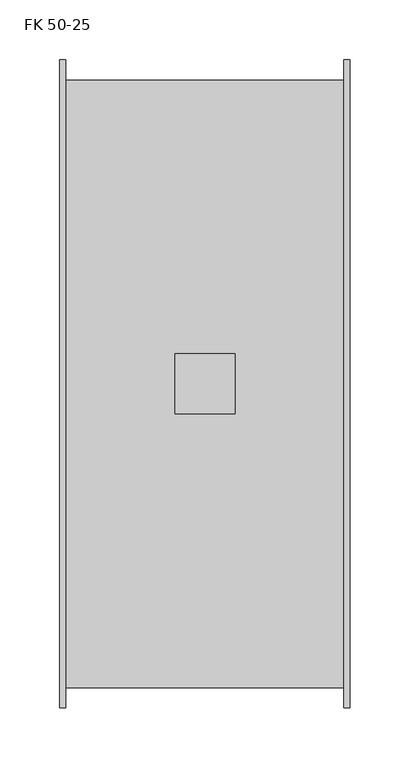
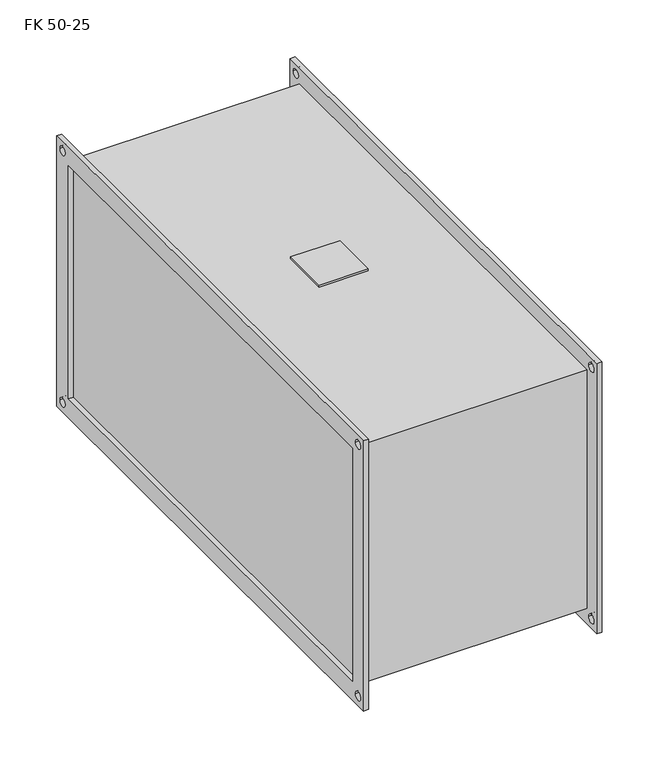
"""IFC4 building model written with IfcOpenShell, lengths in millimetres: damper geometry, KORF_Фильтр_Кассетный_FK : FK 50-25."""

import ifcopenshell
import ifcopenshell.guid

model = None  # the IFC model being written
_history = None  # IfcOwnerHistory: only IFC2X3 demands one
_inside = {}  # id of a spatial element -> (the spatial element, [elements in it])
_under = {}  # id of a project, library or spatial element -> (it, [spatial elements below it])
_declared = {}  # id of a project -> (the project, [libraries it declares])
_typed = {}  # id of a type object -> (the type object, [elements of that type])
_made_of = {}  # id of a material, layer set ... -> (it, [elements and type objects made of it])


def new_model(schema):
    """Start an empty IFC model of exactly this schema.

    Asked for "IFC4X3", IfcOpenShell would pick the latest addendum, in which some entities
    have other attributes; the version numbers below select the first issue.
    IFC2X3 requires an IfcOwnerHistory on every rooted entity: one is made here for all.
    """
    global model, _history
    if schema == "IFC4X3":
        model = ifcopenshell.file(schema_version=(4, 3, 0, 0))
    else:
        model = ifcopenshell.file(schema=schema)
    _inside.clear()
    _under.clear()
    _declared.clear()
    _typed.clear()
    _made_of.clear()
    _history = None
    if model.schema == "IFC2X3":
        org = make("IfcOrganization", Name="unknown")
        user = make(
            "IfcPersonAndOrganization",
            ThePerson=make("IfcPerson", FamilyName="unknown"),
            TheOrganization=org,
        )
        app = make(
            "IfcApplication",
            ApplicationDeveloper=org,
            Version="unknown",
            ApplicationFullName="unknown",
            ApplicationIdentifier="unknown",
        )
        _history = make(
            "IfcOwnerHistory",
            OwningUser=user,
            OwningApplication=app,
            ChangeAction="ADDED",
            CreationDate=0,
        )
    return model


def make(cls, **values):
    """One entity of the class cls with the attributes given. An attribute that is None is left unset."""
    return model.create_entity(
        cls, **{name: value for name, value in values.items() if value is not None}
    )


def rooted(cls, **values):
    """An entity with a GlobalId (a new one), such as an element, a storey or a relation."""
    return make(cls, GlobalId=ifcopenshell.guid.new(), OwnerHistory=_history, **values)


def si_unit(unit_type, name, prefix=None):
    """IfcSIUnit, for example si_unit("LENGTHUNIT", "METRE", prefix="MILLI")."""
    return make("IfcSIUnit", UnitType=unit_type, Prefix=prefix, Name=name)


def assignment(units):
    """IfcUnitAssignment: the units of a project."""
    return None if units is None else make("IfcUnitAssignment", Units=units)


def point(xyz):
    """IfcCartesianPoint."""
    return None if xyz is None else make("IfcCartesianPoint", Coordinates=xyz)


def direction(xyz):
    """IfcDirection."""
    return None if xyz is None else make("IfcDirection", DirectionRatios=xyz)


def frame(location, z_axis=None, x_axis=None):
    """IfcAxis2Placement3D, a coordinate frame: its origin and axes. An axis left out is left unset."""
    return make(
        "IfcAxis2Placement3D",
        Location=point(location),
        Axis=direction(z_axis),
        RefDirection=direction(x_axis),
    )


def frame_2d(location, x_axis=None):
    """IfcAxis2Placement2D, a coordinate frame in the plane: its origin and x axis."""
    return make(
        "IfcAxis2Placement2D", Location=point(location), RefDirection=direction(x_axis)
    )


def origin():
    """The frame at (0, 0, 0) with its axes left unset."""
    return frame((0.0, 0.0, 0.0))


def place(relative_to, where):
    """IfcLocalPlacement: puts the frame where relative to a parent placement (None: the world)."""
    return make(
        "IfcLocalPlacement", PlacementRelTo=relative_to, RelativePlacement=where
    )


def context(
    kind, dimensions, precision=None, world=None, true_north=None, identifier=None
):
    """IfcGeometricRepresentationContext, for example the 3D "Model" context."""
    return make(
        "IfcGeometricRepresentationContext",
        ContextIdentifier=identifier,
        ContextType=kind,
        CoordinateSpaceDimension=dimensions,
        Precision=precision,
        WorldCoordinateSystem=world,
        TrueNorth=true_north,
    )


def project(units=None, contexts=None):
    """IfcProject with its units and contexts."""
    return rooted(
        "IfcProject",
        Name="project",
        RepresentationContexts=contexts,
        UnitsInContext=assignment(units),
    )


def spatial(cls, under=None, at=None, **own):
    """A site, building, storey or space (cls), placed at a placement, below another one or the project."""
    s = rooted(cls, ObjectPlacement=at, **own)
    if under is not None:
        _under.setdefault(under.id(), (under, []))[1].append(s)
    return s


def polyline(points):
    """IfcPolyline through the points."""
    return make("IfcPolyline", Points=[point(p) for p in points])


def circle_curve(where, radius):
    """IfcCircle in the frame where."""
    return make("IfcCircle", Position=where, Radius=radius)


def trimmed(basis, trim1, trim2, sense, master):
    """IfcTrimmedCurve: the piece of a basis curve between two trims."""
    return make(
        "IfcTrimmedCurve",
        BasisCurve=basis,
        Trim1=trim1,
        Trim2=trim2,
        SenseAgreement=sense,
        MasterRepresentation=master,
    )


def segment(curve, same_sense, transition):
    """IfcCompositeCurveSegment."""
    return make(
        "IfcCompositeCurveSegment",
        Transition=transition,
        SameSense=same_sense,
        ParentCurve=curve,
    )


def composite_curve(segments, self_intersect=None):
    """IfcCompositeCurve: segments joined end to end."""
    return make("IfcCompositeCurve", Segments=segments, SelfIntersect=self_intersect)


def outline(outer, holes=None, kind="AREA"):
    """IfcArbitraryClosedProfileDef: a profile drawn as a closed curve; with holes, ...WithVoids."""
    if holes is None:
        return make("IfcArbitraryClosedProfileDef", ProfileType=kind, OuterCurve=outer)
    return make(
        "IfcArbitraryProfileDefWithVoids",
        ProfileType=kind,
        OuterCurve=outer,
        InnerCurves=holes,
    )


def extrude(swept, where, along, depth):
    """IfcExtrudedAreaSolid: the profile swept, set in the frame where, extruded along a direction by depth."""
    return make(
        "IfcExtrudedAreaSolid",
        SweptArea=swept,
        Position=where,
        ExtrudedDirection=direction(along),
        Depth=depth,
    )


def shape(context_of_items, identifier, shape_type, items):
    """IfcShapeRepresentation: the items that make up one representation, for example the "Body"."""
    return make(
        "IfcShapeRepresentation",
        ContextOfItems=context_of_items,
        RepresentationIdentifier=identifier,
        RepresentationType=shape_type,
        Items=items,
    )


def source(mapping_origin, context_of_items, identifier, shape_type, items):
    """IfcRepresentationMap: a shape defined once, which mapped items show again and again."""
    return make(
        "IfcRepresentationMap",
        MappingOrigin=mapping_origin,
        MappedRepresentation=shape(context_of_items, identifier, shape_type, items),
    )


def transform(
    local_origin,
    x_axis=None,
    y_axis=None,
    z_axis=None,
    scale=None,
    scale2=None,
    scale3=None,
    uniform=True,
):
    """IfcCartesianTransformationOperator3D, or its non-uniform kind. x_axis, y_axis, z_axis: its Axis1, 2, 3."""
    if uniform:
        return make(
            "IfcCartesianTransformationOperator3D",
            Axis1=direction(x_axis),
            Axis2=direction(y_axis),
            LocalOrigin=point(local_origin),
            Scale=scale,
            Axis3=direction(z_axis),
        )
    return make(
        "IfcCartesianTransformationOperator3DnonUniform",
        Axis1=direction(x_axis),
        Axis2=direction(y_axis),
        LocalOrigin=point(local_origin),
        Scale=scale,
        Axis3=direction(z_axis),
        Scale2=scale2,
        Scale3=scale3,
    )


def mapped(mapping_source, mapping_target):
    """IfcMappedItem: shows the shape of a source again, moved by a transform."""
    return make(
        "IfcMappedItem", MappingSource=mapping_source, MappingTarget=mapping_target
    )


def made_of(thing, what):
    """Note that an element or type object is made of a material, layer set ...; save() writes the relation."""
    if what is not None:
        _made_of.setdefault(what.id(), (what, []))[1].append(thing)
    return thing


def element(
    cls,
    number,
    at=None,
    inside=None,
    cuts=None,
    type_object=None,
    material=None,
    context=None,
    identifier="Body",
    shape_type=None,
    held_by="IfcProductDefinitionShape",
    body=None,
    shapes=None,
    **own,
):
    """One element of the class cls, such as IfcWall. Its Tag is "e" and its number.

    at: its placement. inside: the storey or other place that contains it. cuts: it is an
    opening in that element (IfcRelVoidsElement). A single representation is given by context,
    identifier, shape_type and body (its items); several are given by shapes. held_by: the class
    of the entity that holds the representations. save() writes the other relations.
    """
    e = rooted(cls, Tag="e%d" % number, ObjectPlacement=at, **own)
    if body is not None:
        shapes = [shape(context, identifier, shape_type, body)]
    if shapes is not None:
        e.Representation = make(held_by, Representations=shapes)
    if inside is not None:
        _inside.setdefault(inside.id(), (inside, []))[1].append(e)
    if cuts is not None:
        rooted(
            "IfcRelVoidsElement", RelatingBuildingElement=cuts, RelatedOpeningElement=e
        )
    if type_object is not None:
        _typed.setdefault(type_object.id(), (type_object, []))[1].append(e)
    return made_of(e, material)


def aggregate(whole, parts):
    """IfcRelAggregates: a whole, such as a stair, and the parts it consists of."""
    return rooted("IfcRelAggregates", RelatingObject=whole, RelatedObjects=parts)


def save(model, path):
    """Write the relations noted so far, then the file.

    IfcRelAggregates (storeys below a building ...), IfcRelContainedInSpatialStructure (elements
    in a storey), IfcRelDefinesByType, IfcRelAssociatesMaterial and IfcRelDeclares: one each for
    every whole, place, type object, material and project.
    """
    for whole, parts in _under.values():
        aggregate(whole, parts)
    for where, things in _inside.values():
        rooted(
            "IfcRelContainedInSpatialStructure",
            RelatedElements=things,
            RelatingStructure=where,
        )
    for kind, things in _typed.values():
        rooted("IfcRelDefinesByType", RelatedObjects=things, RelatingType=kind)
    for what, things in _made_of.values():
        rooted("IfcRelAssociatesMaterial", RelatedObjects=things, RelatingMaterial=what)
    for by, libraries in _declared.values():
        rooted("IfcRelDeclares", RelatingContext=by, RelatedDefinitions=libraries)
    model.write(path)


def fk_50_25_1d13ae3f(model_context):
    return source(origin(), model_context, "Body", "SweptSolid", [
        extrude(outline(polyline([(96.0, -25.0), (96.0, 25.0), (146.0, 25.0), (146.0, -25.0), (96.0, -25.0)])), frame((0.0, 0.0, 128.0), z_axis=(0.0, 0.0, 1.0), x_axis=(1.0, 0.0, 0.0)), (0.0, 0.0, 1.0), 2.0),
        extrude(outline(polyline([(-270.0, 145.0), (270.0, 145.0), (270.0, -145.0), (-270.0, -145.0), (-270.0, 145.0)]), holes=[polyline([(-250.0, 125.0), (-250.0, -125.0), (250.0, -125.0), (250.0, 125.0), (-250.0, 125.0)]), composite_curve([segment(trimmed(circle_curve(frame_2d((260.0, 135.0)), 4.5), [point((255.5, 135.0))], [point((264.5, 135.0))], True, "CARTESIAN"), True, "CONTINUOUS"), segment(trimmed(circle_curve(frame_2d((260.0, 135.0)), 4.5), [point((264.5, 135.0))], [point((255.5, 135.0))], True, "CARTESIAN"), True, "CONTINUOUS")], self_intersect=False), composite_curve([segment(trimmed(circle_curve(frame_2d((-260.0, 135.0)), 4.5), [point((-264.5, 135.0))], [point((-255.5, 135.0))], True, "CARTESIAN"), True, "CONTINUOUS"), segment(trimmed(circle_curve(frame_2d((-260.0, 135.0)), 4.5), [point((-255.5, 135.0))], [point((-264.5, 135.0))], True, "CARTESIAN"), True, "CONTINUOUS")], self_intersect=False), composite_curve([segment(trimmed(circle_curve(frame_2d((-260.0, -135.0)), 4.5), [point((-264.5, -135.0))], [point((-255.5, -135.0))], True, "CARTESIAN"), True, "CONTINUOUS"), segment(trimmed(circle_curve(frame_2d((-260.0, -135.0)), 4.5), [point((-255.5, -135.0))], [point((-264.5, -135.0))], True, "CARTESIAN"), True, "CONTINUOUS")], self_intersect=False), composite_curve([segment(trimmed(circle_curve(frame_2d((260.0, -135.0)), 4.5), [point((255.5, -135.0))], [point((264.5, -135.0))], True, "CARTESIAN"), True, "CONTINUOUS"), segment(trimmed(circle_curve(frame_2d((260.0, -135.0)), 4.5), [point((264.5, -135.0))], [point((255.5, -135.0))], True, "CARTESIAN"), True, "CONTINUOUS")], self_intersect=False)]), frame((237.0, 0.0, 0.0), z_axis=(1.0, 0.0, 0.0), x_axis=(0.0, 1.0, 0.0)), (0.0, 0.0, 1.0), 5.0),
        extrude(outline(polyline([(-270.0, 145.0), (270.0, 145.0), (270.0, -145.0), (-270.0, -145.0), (-270.0, 145.0)]), holes=[polyline([(-250.0, 125.0), (-250.0, -125.0), (250.0, -125.0), (250.0, 125.0), (-250.0, 125.0)]), composite_curve([segment(trimmed(circle_curve(frame_2d((260.0, 135.0)), 4.5), [point((255.5, 135.0))], [point((264.5, 135.0))], True, "CARTESIAN"), True, "CONTINUOUS"), segment(trimmed(circle_curve(frame_2d((260.0, 135.0)), 4.5), [point((264.5, 135.0))], [point((255.5, 135.0))], True, "CARTESIAN"), True, "CONTINUOUS")], self_intersect=False), composite_curve([segment(trimmed(circle_curve(frame_2d((-260.0, 135.0)), 4.5), [point((-264.5, 135.0))], [point((-255.5, 135.0))], True, "CARTESIAN"), True, "CONTINUOUS"), segment(trimmed(circle_curve(frame_2d((-260.0, 135.0)), 4.5), [point((-255.5, 135.0))], [point((-264.5, 135.0))], True, "CARTESIAN"), True, "CONTINUOUS")], self_intersect=False), composite_curve([segment(trimmed(circle_curve(frame_2d((-260.0, -135.0)), 4.5), [point((-264.5, -135.0))], [point((-255.5, -135.0))], True, "CARTESIAN"), True, "CONTINUOUS"), segment(trimmed(circle_curve(frame_2d((-260.0, -135.0)), 4.5), [point((-255.5, -135.0))], [point((-264.5, -135.0))], True, "CARTESIAN"), True, "CONTINUOUS")], self_intersect=False), composite_curve([segment(trimmed(circle_curve(frame_2d((260.0, -135.0)), 4.5), [point((255.5, -135.0))], [point((264.5, -135.0))], True, "CARTESIAN"), True, "CONTINUOUS"), segment(trimmed(circle_curve(frame_2d((260.0, -135.0)), 4.5), [point((264.5, -135.0))], [point((255.5, -135.0))], True, "CARTESIAN"), True, "CONTINUOUS")], self_intersect=False)]), frame((0.0, 0.0, 0.0), z_axis=(1.0, 0.0, 0.0), x_axis=(0.0, 1.0, 0.0)), (0.0, 0.0, 1.0), 5.0),
        extrude(outline(polyline([(237.0, 253.0), (237.0, -253.0), (5.0, -253.0), (5.0, 253.0), (237.0, 253.0)])), frame((0.0, 0.0, -128.0), z_axis=(0.0, 0.0, 1.0), x_axis=(1.0, 0.0, 0.0)), (0.0, 0.0, 1.0), 256.0),
    ])


if __name__ == "__main__":
    model = new_model("IFC4")
    model_context = context("Model", 3, world=origin())
    ifc_project = project(units=[si_unit("LENGTHUNIT", "METRE", prefix="MILLI")], contexts=[model_context])
    site = spatial("IfcSite", under=ifc_project)
    building = spatial("IfcBuilding", under=site)
    placement = place(None, origin())
    fk_50_25_shape = fk_50_25_1d13ae3f(model_context)
    element("IfcDamper", 1, ObjectType="KORF_Фильтр_Кассетный_FK : FK 50-25", at=placement, inside=building, context=model_context, shape_type="MappedRepresentation", body=[
        mapped(fk_50_25_shape, transform((0.0, 0.0, 0.0), x_axis=(1.0, 0.0, 0.0), y_axis=(0.0, 1.0, 0.0), z_axis=(0.0, 0.0, 1.0))),
    ])
    save(model, "model.ifc")
